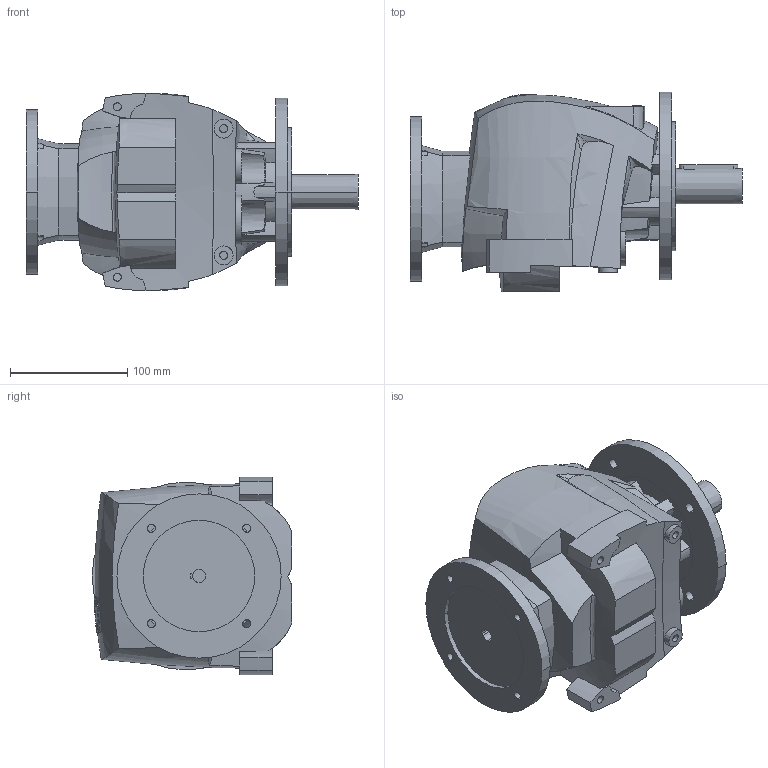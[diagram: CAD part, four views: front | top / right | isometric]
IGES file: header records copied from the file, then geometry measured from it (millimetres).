
Start section:  PTC IGES file: r25_160_pam63_d2.igs
Global section: file name: r25_160_pam63_d2.igs; native system: Pro/ENGINEER by Parametric Technology Corporation; preprocessor: 2008230; author: Luca; organization: Unknown; date: 20131217.152839; units: millimetre
Bounding box: 283 x 170 x 168.44 mm (x, y, z)
Volume: 3517404.7 mm3; surface area: 213631.7 mm2
Topology: 1 solids, 7 shells, 411 faces, 1108 edges, 739 vertices
Faces by surface type: bspline 255, revolution 156
